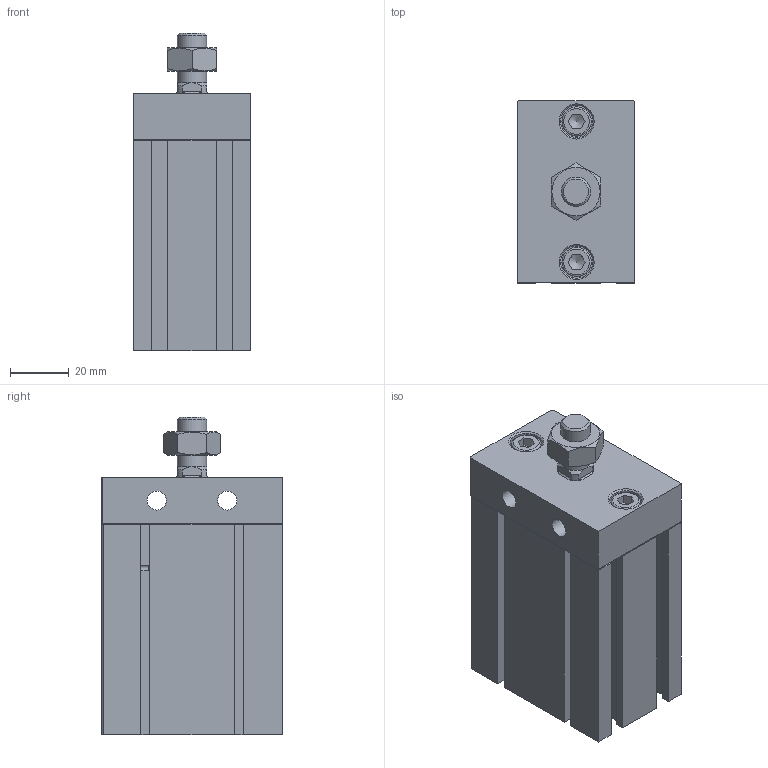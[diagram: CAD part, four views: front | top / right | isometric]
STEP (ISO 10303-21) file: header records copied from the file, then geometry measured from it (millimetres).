
FILE_DESCRIPTION((''),'2;1');
FILE_NAME('I:\3D電子目錄\氣缸\ND\ND\ND32-B\ND32x40-B.stp','2007-07-24T20:10:51',('Administrator'),(''),'Autodesk Inventor 11','Autodesk Inventor 11','');
FILE_SCHEMA(('AUTOMOTIVE_DESIGN { 1 0 10303 214 1 1 1 1 }'));
Length unit declared in the file: millimetre
Products named in the file (4): ND32-B; R 形環 34; ISO 4762 M6 x 16
Assembly tree (4 placements, depth 2):
  ND32-B
    ND32-B
    R 形環 34
    ISO 4762 M6 x 16  x2
Bounding box: 40 x 62.1 x 108.5 mm (x, y, z)
Volume: 194240.4 mm3; surface area: 40304.8 mm2
Topology: 5 solids, 5 shells, 205 faces, 501 edges, 319 vertices
Faces by surface type: plane 141, cylinder 27, cone 20, bspline 14, torus 3
Full cylindrical faces by diameter (mm): 1.9 x2, 2.2 x2, 6 x2, 6.5 x2, 10 x4, 11 x2, 23 x1, 34 x1, 36 x1
Entity records: 5531 total; most frequent: CARTESIAN_POINT 1147, DIRECTION 860, ORIENTED_EDGE 844, EDGE_CURVE 422, VECTOR 302, LINE 302, VERTEX_POINT 292, AXIS2_PLACEMENT_3D 279
